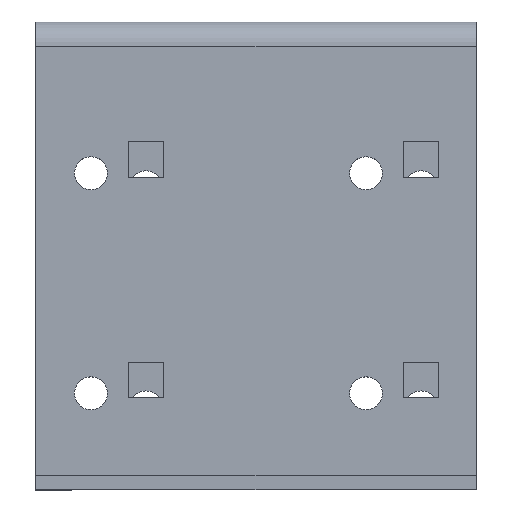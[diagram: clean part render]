
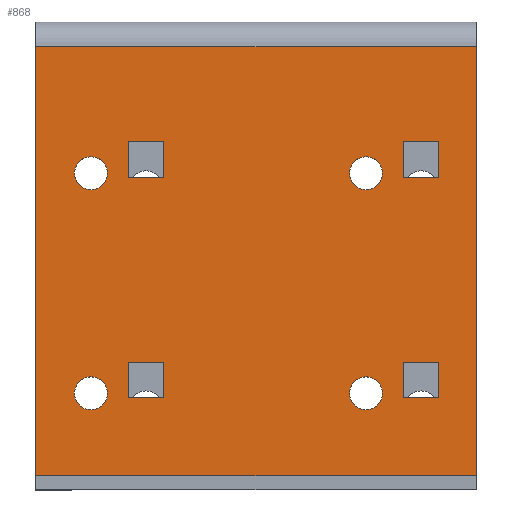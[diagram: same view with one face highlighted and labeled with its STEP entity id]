
A CAD part, top view. The second image highlights one B-rep face of the part: STEP entity #868.
In plain terms, the highlighted planar face has unit normal (0, 0, 1).
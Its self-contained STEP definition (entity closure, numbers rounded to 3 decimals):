
#23=FACE_BOUND('',#104,.T.);
#24=FACE_BOUND('',#105,.T.);
#25=FACE_BOUND('',#106,.T.);
#26=FACE_BOUND('',#107,.T.);
#27=FACE_BOUND('',#108,.T.);
#28=FACE_BOUND('',#109,.T.);
#29=FACE_BOUND('',#110,.T.);
#30=FACE_BOUND('',#111,.T.);
#57=FACE_OUTER_BOUND('',#103,.T.);
#103=EDGE_LOOP('',(#606,#607,#608,#609));
#104=EDGE_LOOP('',(#610));
#105=EDGE_LOOP('',(#611));
#106=EDGE_LOOP('',(#612));
#107=EDGE_LOOP('',(#613));
#108=EDGE_LOOP('',(#614,#615,#616,#617));
#109=EDGE_LOOP('',(#618,#619,#620,#621));
#110=EDGE_LOOP('',(#622,#623,#624,#625));
#111=EDGE_LOOP('',(#626,#627,#628,#629));
#170=LINE('',#1239,#272);
#174=LINE('',#1246,#276);
#175=LINE('',#1249,#277);
#176=LINE('',#1250,#278);
#177=LINE('',#1261,#279);
#178=LINE('',#1263,#280);
#179=LINE('',#1265,#281);
#180=LINE('',#1266,#282);
#181=LINE('',#1269,#283);
#182=LINE('',#1271,#284);
#183=LINE('',#1273,#285);
#184=LINE('',#1274,#286);
#185=LINE('',#1277,#287);
#186=LINE('',#1279,#288);
#187=LINE('',#1281,#289);
#188=LINE('',#1282,#290);
#189=LINE('',#1285,#291);
#190=LINE('',#1287,#292);
#191=LINE('',#1289,#293);
#192=LINE('',#1290,#294);
#272=VECTOR('',#1002,80.);
#276=VECTOR('',#1008,78.);
#277=VECTOR('',#1011,80.);
#278=VECTOR('',#1012,78.);
#279=VECTOR('',#1021,6.4);
#280=VECTOR('',#1022,6.4);
#281=VECTOR('',#1023,6.4);
#282=VECTOR('',#1024,6.4);
#283=VECTOR('',#1025,6.4);
#284=VECTOR('',#1026,6.4);
#285=VECTOR('',#1027,6.4);
#286=VECTOR('',#1028,6.4);
#287=VECTOR('',#1029,6.4);
#288=VECTOR('',#1030,6.4);
#289=VECTOR('',#1031,6.4);
#290=VECTOR('',#1032,6.4);
#291=VECTOR('',#1033,6.4);
#292=VECTOR('',#1034,6.4);
#293=VECTOR('',#1035,6.4);
#294=VECTOR('',#1036,6.4);
#372=CIRCLE('',#921,3.);
#373=CIRCLE('',#922,3.);
#374=CIRCLE('',#923,3.);
#375=CIRCLE('',#924,3.);
#389=VERTEX_POINT('',#1223);
#392=VERTEX_POINT('',#1230);
#395=VERTEX_POINT('',#1244);
#396=VERTEX_POINT('',#1248);
#397=VERTEX_POINT('',#1251);
#398=VERTEX_POINT('',#1253);
#399=VERTEX_POINT('',#1255);
#400=VERTEX_POINT('',#1257);
#401=VERTEX_POINT('',#1259);
#402=VERTEX_POINT('',#1260);
#403=VERTEX_POINT('',#1262);
#404=VERTEX_POINT('',#1264);
#405=VERTEX_POINT('',#1267);
#406=VERTEX_POINT('',#1268);
#407=VERTEX_POINT('',#1270);
#408=VERTEX_POINT('',#1272);
#409=VERTEX_POINT('',#1275);
#410=VERTEX_POINT('',#1276);
#411=VERTEX_POINT('',#1278);
#412=VERTEX_POINT('',#1280);
#413=VERTEX_POINT('',#1283);
#414=VERTEX_POINT('',#1284);
#415=VERTEX_POINT('',#1286);
#416=VERTEX_POINT('',#1288);
#476=EDGE_CURVE('',#389,#392,#170,.T.);
#480=EDGE_CURVE('',#395,#392,#174,.T.);
#481=EDGE_CURVE('',#396,#395,#175,.T.);
#482=EDGE_CURVE('',#389,#396,#176,.T.);
#483=EDGE_CURVE('',#397,#397,#372,.T.);
#484=EDGE_CURVE('',#398,#398,#373,.T.);
#485=EDGE_CURVE('',#399,#399,#374,.T.);
#486=EDGE_CURVE('',#400,#400,#375,.T.);
#487=EDGE_CURVE('',#401,#402,#177,.T.);
#488=EDGE_CURVE('',#402,#403,#178,.T.);
#489=EDGE_CURVE('',#403,#404,#179,.T.);
#490=EDGE_CURVE('',#404,#401,#180,.T.);
#491=EDGE_CURVE('',#405,#406,#181,.T.);
#492=EDGE_CURVE('',#406,#407,#182,.T.);
#493=EDGE_CURVE('',#407,#408,#183,.T.);
#494=EDGE_CURVE('',#408,#405,#184,.T.);
#495=EDGE_CURVE('',#409,#410,#185,.T.);
#496=EDGE_CURVE('',#410,#411,#186,.T.);
#497=EDGE_CURVE('',#411,#412,#187,.T.);
#498=EDGE_CURVE('',#412,#409,#188,.T.);
#499=EDGE_CURVE('',#413,#414,#189,.T.);
#500=EDGE_CURVE('',#414,#415,#190,.T.);
#501=EDGE_CURVE('',#415,#416,#191,.T.);
#502=EDGE_CURVE('',#416,#413,#192,.T.);
#606=ORIENTED_EDGE('',*,*,#476,.T.);
#607=ORIENTED_EDGE('',*,*,#480,.F.);
#608=ORIENTED_EDGE('',*,*,#481,.F.);
#609=ORIENTED_EDGE('',*,*,#482,.F.);
#610=ORIENTED_EDGE('',*,*,#483,.T.);
#611=ORIENTED_EDGE('',*,*,#484,.T.);
#612=ORIENTED_EDGE('',*,*,#485,.T.);
#613=ORIENTED_EDGE('',*,*,#486,.T.);
#614=ORIENTED_EDGE('',*,*,#487,.T.);
#615=ORIENTED_EDGE('',*,*,#488,.T.);
#616=ORIENTED_EDGE('',*,*,#489,.T.);
#617=ORIENTED_EDGE('',*,*,#490,.T.);
#618=ORIENTED_EDGE('',*,*,#491,.T.);
#619=ORIENTED_EDGE('',*,*,#492,.T.);
#620=ORIENTED_EDGE('',*,*,#493,.T.);
#621=ORIENTED_EDGE('',*,*,#494,.T.);
#622=ORIENTED_EDGE('',*,*,#495,.T.);
#623=ORIENTED_EDGE('',*,*,#496,.T.);
#624=ORIENTED_EDGE('',*,*,#497,.T.);
#625=ORIENTED_EDGE('',*,*,#498,.T.);
#626=ORIENTED_EDGE('',*,*,#499,.T.);
#627=ORIENTED_EDGE('',*,*,#500,.T.);
#628=ORIENTED_EDGE('',*,*,#501,.T.);
#629=ORIENTED_EDGE('',*,*,#502,.T.);
#829=PLANE('',#920);
#868=ADVANCED_FACE('',(#57,#23,#24,#25,#26,#27,#28,#29,#30),#829,.T.);
#920=AXIS2_PLACEMENT_3D('',#1247,#1009,#1010);
#921=AXIS2_PLACEMENT_3D('',#1252,#1013,#1014);
#922=AXIS2_PLACEMENT_3D('',#1254,#1015,#1016);
#923=AXIS2_PLACEMENT_3D('',#1256,#1017,#1018);
#924=AXIS2_PLACEMENT_3D('',#1258,#1019,#1020);
#1002=DIRECTION('',(-1.,0.,0.));
#1008=DIRECTION('',(0.,1.,0.));
#1009=DIRECTION('center_axis',(0.,0.,1.));
#1010=DIRECTION('ref_axis',(1.,0.,0.));
#1011=DIRECTION('',(-1.,0.,0.));
#1012=DIRECTION('',(0.,-1.,0.));
#1013=DIRECTION('center_axis',(0.,0.,-1.));
#1014=DIRECTION('ref_axis',(1.,0.,0.));
#1015=DIRECTION('center_axis',(0.,0.,-1.));
#1016=DIRECTION('ref_axis',(1.,0.,0.));
#1017=DIRECTION('center_axis',(0.,0.,-1.));
#1018=DIRECTION('ref_axis',(1.,0.,0.));
#1019=DIRECTION('center_axis',(0.,0.,-1.));
#1020=DIRECTION('ref_axis',(1.,0.,0.));
#1021=DIRECTION('',(0.,-1.,0.));
#1022=DIRECTION('',(-1.,0.,0.));
#1023=DIRECTION('',(0.,1.,0.));
#1024=DIRECTION('',(1.,0.,0.));
#1025=DIRECTION('',(0.,-1.,0.));
#1026=DIRECTION('',(-1.,0.,0.));
#1027=DIRECTION('',(0.,1.,0.));
#1028=DIRECTION('',(1.,0.,0.));
#1029=DIRECTION('',(0.,-1.,0.));
#1030=DIRECTION('',(-1.,0.,0.));
#1031=DIRECTION('',(0.,1.,0.));
#1032=DIRECTION('',(1.,0.,0.));
#1033=DIRECTION('',(0.,-1.,0.));
#1034=DIRECTION('',(-1.,0.,0.));
#1035=DIRECTION('',(0.,1.,0.));
#1036=DIRECTION('',(1.,0.,0.));
#1223=CARTESIAN_POINT('',(40.,-15.5,2.5));
#1230=CARTESIAN_POINT('',(-40.,-15.5,2.5));
#1239=CARTESIAN_POINT('',(-20.,-15.5,2.5));
#1244=CARTESIAN_POINT('',(-40.,-93.5,2.5));
#1246=CARTESIAN_POINT('',(-40.,10.5,2.5));
#1247=CARTESIAN_POINT('Origin',(0.,-33.644,
2.5));
#1248=CARTESIAN_POINT('',(40.,-93.5,2.5));
#1249=CARTESIAN_POINT('',(-40.,-93.5,2.5));
#1250=CARTESIAN_POINT('',(40.,-93.5,2.5));
#1251=CARTESIAN_POINT('',(-27.,-78.5,2.5));
#1252=CARTESIAN_POINT('Origin',(-30.,-78.5,2.5));
#1253=CARTESIAN_POINT('',(23.,-78.5,2.5));
#1254=CARTESIAN_POINT('Origin',(20.,-78.5,2.5));
#1255=CARTESIAN_POINT('',(23.,-38.5,2.5));
#1256=CARTESIAN_POINT('Origin',(20.,-38.5,2.5));
#1257=CARTESIAN_POINT('',(-27.,-38.5,2.5));
#1258=CARTESIAN_POINT('Origin',(-30.,-38.5,2.5));
#1259=CARTESIAN_POINT('',(33.2,-32.8,2.5));
#1260=CARTESIAN_POINT('',(33.2,-39.2,2.5));
#1261=CARTESIAN_POINT('',(33.2,-33.222,2.5));
#1262=CARTESIAN_POINT('',(26.8,-39.2,2.5));
#1263=CARTESIAN_POINT('',(16.6,-39.2,2.5));
#1264=CARTESIAN_POINT('',(26.8,-32.8,2.5));
#1265=CARTESIAN_POINT('',(26.8,-36.422,2.5));
#1266=CARTESIAN_POINT('',(13.4,-32.8,2.5));
#1267=CARTESIAN_POINT('',(-16.8,-72.8,2.5));
#1268=CARTESIAN_POINT('',(-16.8,-79.2,2.5));
#1269=CARTESIAN_POINT('',(-16.8,-53.222,2.5));
#1270=CARTESIAN_POINT('',(-23.2,-79.2,2.5));
#1271=CARTESIAN_POINT('',(-8.4,-79.2,2.5));
#1272=CARTESIAN_POINT('',(-23.2,-72.8,2.5));
#1273=CARTESIAN_POINT('',(-23.2,-56.422,2.5));
#1274=CARTESIAN_POINT('',(-11.6,-72.8,2.5));
#1275=CARTESIAN_POINT('',(33.2,-72.8,2.5));
#1276=CARTESIAN_POINT('',(33.2,-79.2,2.5));
#1277=CARTESIAN_POINT('',(33.2,-53.222,2.5));
#1278=CARTESIAN_POINT('',(26.8,-79.2,2.5));
#1279=CARTESIAN_POINT('',(16.6,-79.2,2.5));
#1280=CARTESIAN_POINT('',(26.8,-72.8,2.5));
#1281=CARTESIAN_POINT('',(26.8,-56.422,2.5));
#1282=CARTESIAN_POINT('',(13.4,-72.8,2.5));
#1283=CARTESIAN_POINT('',(-16.8,-32.8,2.5));
#1284=CARTESIAN_POINT('',(-16.8,-39.2,2.5));
#1285=CARTESIAN_POINT('',(-16.8,-33.222,2.5));
#1286=CARTESIAN_POINT('',(-23.2,-39.2,2.5));
#1287=CARTESIAN_POINT('',(-8.4,-39.2,2.5));
#1288=CARTESIAN_POINT('',(-23.2,-32.8,2.5));
#1289=CARTESIAN_POINT('',(-23.2,-36.422,2.5));
#1290=CARTESIAN_POINT('',(-11.6,-32.8,2.5));
